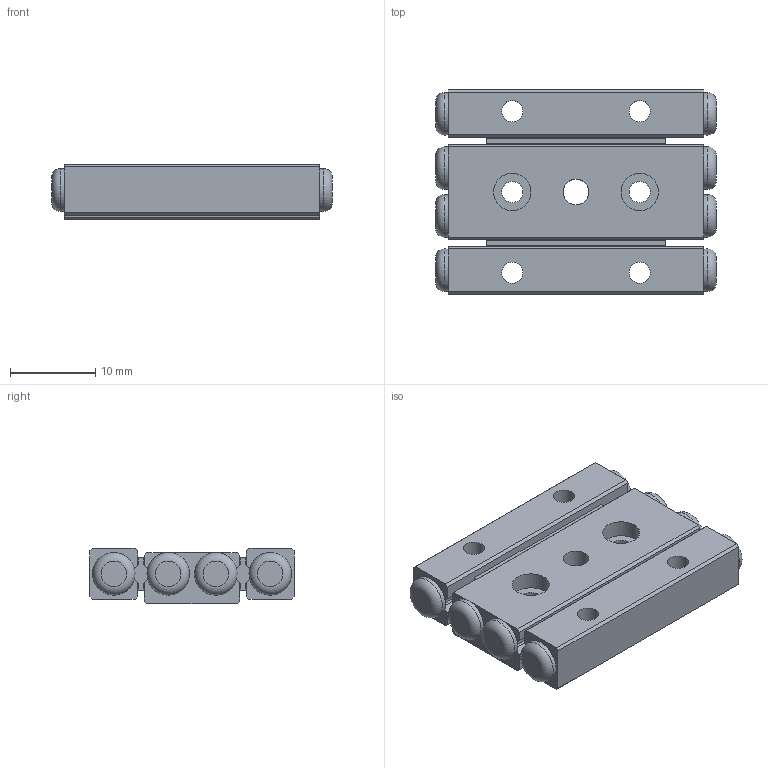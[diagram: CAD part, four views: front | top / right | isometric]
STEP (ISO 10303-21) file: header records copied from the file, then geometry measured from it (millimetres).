
FILE_DESCRIPTION(/* description */ ('STEP AP214'),/* implementation_level */ '2;1');
FILE_NAME(/* name */ 'VRG2WM-30Hx6Z(0)',/* time_stamp */ '2024-09-19T10:10:39+02:00',/* author */ ('License CC BY-ND 4.0'),/* organization */ ('CADENAS'),/* preprocessor_version */ 'ST-DEVELOPER v19.3',/* originating_system */ 'PARTsolutions',/* authorisation */ ' ');
FILE_SCHEMA (('AUTOMOTIVE_DESIGN {1 0 10303 214 3 1 1}'));
Length unit declared in the file: millimetre
Products named in the file (4): VRG2WM-30Hx6Z(0); VRG2VM-30*6Z-3; VRG2VM-30*6Z-1; VRG2VM-30*6Z-2
Assembly tree (5 placements, depth 2):
  VRG2WM-30Hx6Z(0)
    VRG2VM-30*6Z-3
    VRG2VM-30*6Z-1  x2
    VRG2VM-30*6Z-2  x2
Bounding box: 33 x 24 x 6.5 mm (x, y, z)
Volume: 3934.8 mm3; surface area: 3776.6 mm2
Topology: 5 solids, 5 shells, 349 faces, 955 edges, 618 vertices
Faces by surface type: plane 248, cylinder 69, cone 24, torus 8
Full cylindrical faces by diameter (mm): 2.5 x6, 3 x1, 4.4 x6, 5 x8
Entity records: 6857 total; most frequent: CARTESIAN_POINT 1087, DIRECTION 1012, ORIENTED_EDGE 968, EDGE_CURVE 484, AXIS2_PLACEMENT_3D 347, VERTEX_POINT 326, LINE 318, VECTOR 318
